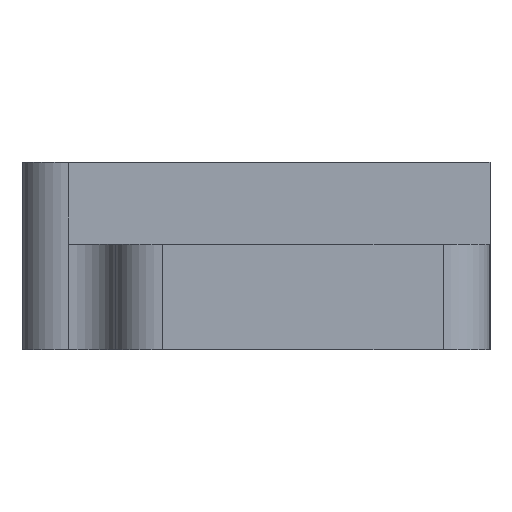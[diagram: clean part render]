
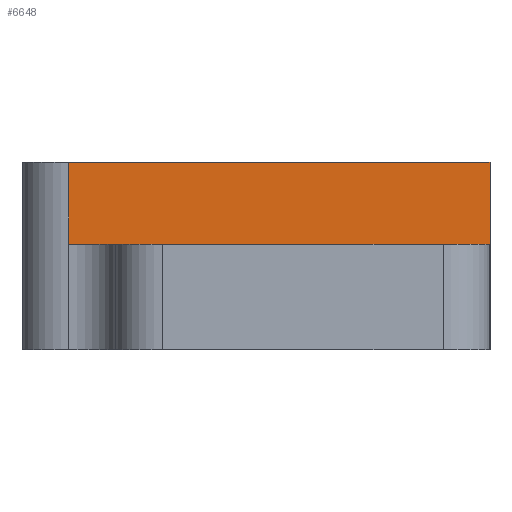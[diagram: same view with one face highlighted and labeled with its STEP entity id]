
A CAD part, front view. The second image highlights one B-rep face of the part: STEP entity #6648.
In plain terms, the highlighted planar face has unit normal (0, -1, 0).
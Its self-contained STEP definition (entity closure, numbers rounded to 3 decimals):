
#148 = ORIENTED_EDGE ( 'NONE', *, *, #463, .F. ) ;
#171 = CARTESIAN_POINT ( 'NONE',  ( -32.371, 21.622, 19.379 ) ) ;
#463 = EDGE_CURVE ( 'NONE', #798, #599, #518, .T. ) ;
#518 = LINE ( 'NONE', #6795, #2286 ) ;
#530 = CARTESIAN_POINT ( 'NONE',  ( -50.371, 21.622, 22.879 ) ) ;
#599 = VERTEX_POINT ( 'NONE', #171 ) ;
#798 = VERTEX_POINT ( 'NONE', #3528 ) ;
#986 = ORIENTED_EDGE ( 'NONE', *, *, #1190, .F. ) ;
#1190 = EDGE_CURVE ( 'NONE', #599, #5564, #4040, .T. ) ;
#1425 = CARTESIAN_POINT ( 'NONE',  ( -50.371, 21.622, 19.379 ) ) ;
#1491 = EDGE_CURVE ( 'NONE', #6936, #5564, #5043, .T. ) ;
#1631 = DIRECTION ( 'NONE',  ( -1., 0., 0. ) ) ;
#1663 = FACE_OUTER_BOUND ( 'NONE', #7232, .T. ) ;
#1857 = EDGE_CURVE ( 'NONE', #798, #6936, #3351, .T. ) ;
#2067 = PLANE ( 'NONE',  #3322 ) ;
#2286 = VECTOR ( 'NONE', #5033, 1000. ) ;
#2318 = VECTOR ( 'NONE', #6326, 1000. ) ;
#3280 = CARTESIAN_POINT ( 'NONE',  ( -32.371, 21.622, 22.879 ) ) ;
#3322 = AXIS2_PLACEMENT_3D ( 'NONE', #3826, #6038, #4496 ) ;
#3351 = LINE ( 'NONE', #3280, #6181 ) ;
#3440 = DIRECTION ( 'NONE',  ( 0., 0., -1. ) ) ;
#3528 = CARTESIAN_POINT ( 'NONE',  ( -32.371, 21.622, 22.879 ) ) ;
#3826 = CARTESIAN_POINT ( 'NONE',  ( -32.371, 21.622, 22.879 ) ) ;
#4040 = LINE ( 'NONE', #4491, #2318 ) ;
#4491 = CARTESIAN_POINT ( 'NONE',  ( -48.371, 21.622, 19.379 ) ) ;
#4496 = DIRECTION ( 'NONE',  ( 0., 0., -1. ) ) ;
#4501 = VECTOR ( 'NONE', #3440, 1000. ) ;
#5033 = DIRECTION ( 'NONE',  ( 0., 0., -1. ) ) ;
#5043 = LINE ( 'NONE', #530, #4501 ) ;
#5564 = VERTEX_POINT ( 'NONE', #1425 ) ;
#5639 = ORIENTED_EDGE ( 'NONE', *, *, #1491, .T. ) ;
#5683 = CARTESIAN_POINT ( 'NONE',  ( -50.371, 21.622, 22.879 ) ) ;
#6038 = DIRECTION ( 'NONE',  ( 0., -1., 0. ) ) ;
#6181 = VECTOR ( 'NONE', #1631, 1000. ) ;
#6326 = DIRECTION ( 'NONE',  ( -1., 0., 0. ) ) ;
#6648 = ADVANCED_FACE ( 'NONE', ( #1663 ), #2067, .T. ) ;
#6795 = CARTESIAN_POINT ( 'NONE',  ( -32.371, 21.622, 22.879 ) ) ;
#6936 = VERTEX_POINT ( 'NONE', #5683 ) ;
#6941 = ORIENTED_EDGE ( 'NONE', *, *, #1857, .T. ) ;
#7232 = EDGE_LOOP ( 'NONE', ( #5639, #986, #148, #6941 ) ) ;
